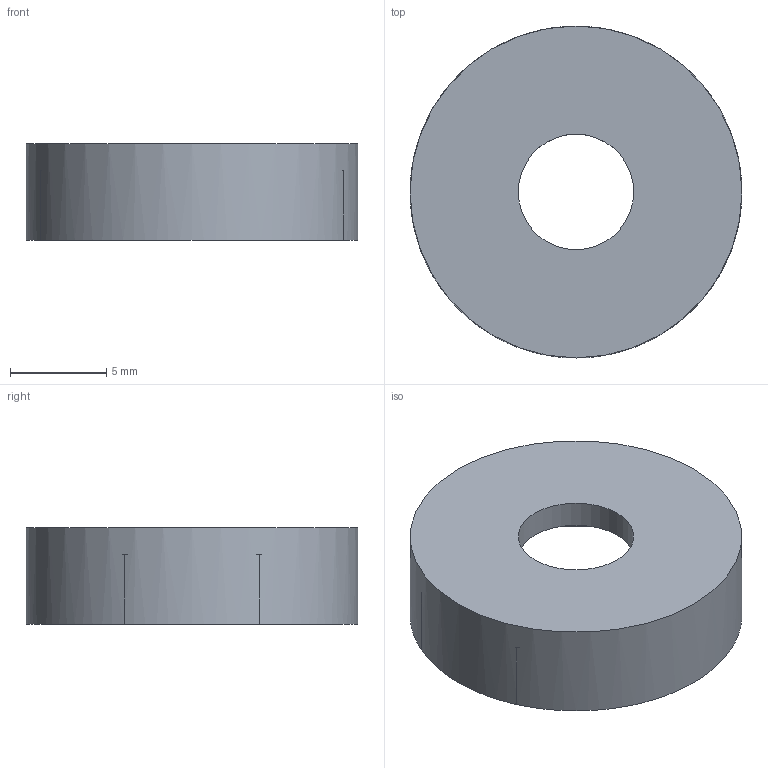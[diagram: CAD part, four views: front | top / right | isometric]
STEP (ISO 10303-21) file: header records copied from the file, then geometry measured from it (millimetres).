
FILE_DESCRIPTION(('Open CASCADE Model'),'2;1');
FILE_NAME('Open CASCADE Shape Model','2026-05-31T19:44:11',('Author'),( 'Open CASCADE'),'Open CASCADE STEP processor 7.6','Open CASCADE 7.6' ,'Unknown');
FILE_SCHEMA(('AP242_MANAGED_MODEL_BASED_3D_ENGINEERING_MIM_LF. {1 0 10303 442 1 1 4 }'));
Length unit declared in the file: millimetre
Products named in the file (1): Open CASCADE STEP translator 7.6 6
Bounding box: 17.25 x 17.25 x 5 mm (x, y, z)
Volume: 391.3 mm3; surface area: 895.9 mm2
Topology: 1 solids, 1 shells, 13 faces, 30 edges, 20 vertices
Faces by surface type: plane 11, cylinder 2
Full cylindrical faces by diameter (mm): 6 x1, 17.25 x1
Entity records: 775 total; most frequent: CARTESIAN_POINT 130, DIRECTION 121, LINE 82, VECTOR 82, ORIENTED_EDGE 60, PCURVE 60, DEFINITIONAL_REPRESENTATION 60, EDGE_CURVE 30
